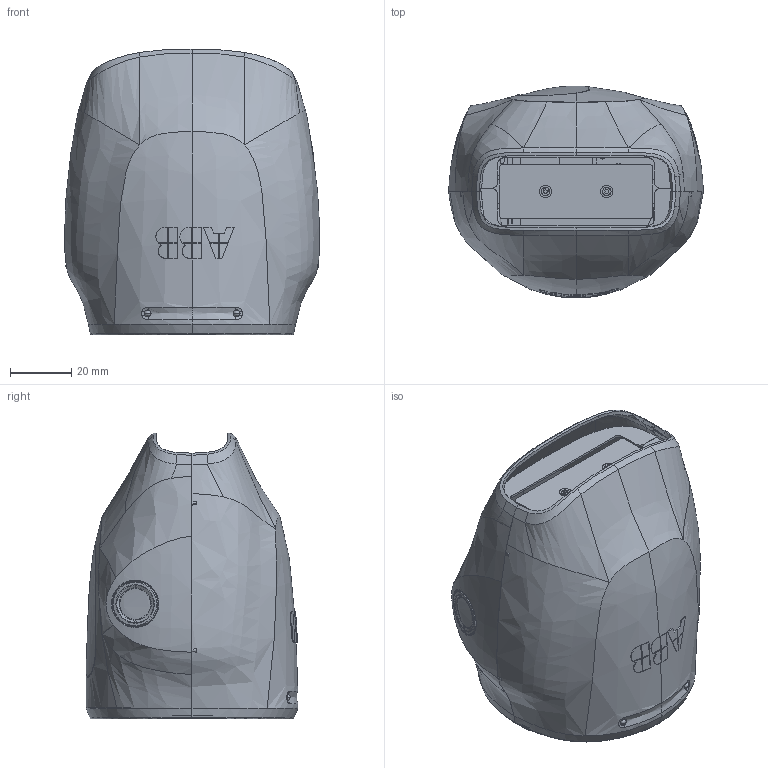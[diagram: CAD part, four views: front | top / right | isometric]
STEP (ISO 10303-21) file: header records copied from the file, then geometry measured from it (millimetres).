
FILE_DESCRIPTION (( 'STEP AP203' ), '1' );
FILE_NAME ('IRB14000_GRIPPER_rev00_BASE.STEP', '2015-06-10T02:47:00', ( 'ABB' ), ( 'ABB' ), 'SwSTEP 2.0', 'SolidWorks 2012', '' );
FILE_SCHEMA (( 'CONFIG_CONTROL_DESIGN' ));
Products named in the file (1): IRB14000_GRIPPER_rev00_BASE
Bounding box: 83.1 x 69 x 93.11 mm (x, y, z)
Surface area: 71896.2 mm2 (no closed solid volume)
Topology: 0 solids, 61 shells, 1973 faces, 5484 edges, 3594 vertices
Faces by surface type: plane 858, bspline 567, cylinder 390, cone 148, torus 10
Entity records: 132764 total; most frequent: CARTESIAN_POINT 88642, ORIENTED_EDGE 10808, DIRECTION 6414, EDGE_CURVE 5446, VERTEX_POINT 3594, B_SPLINE_CURVE_WITH_KNOTS 2448, LINE 2216, VECTOR 2216
